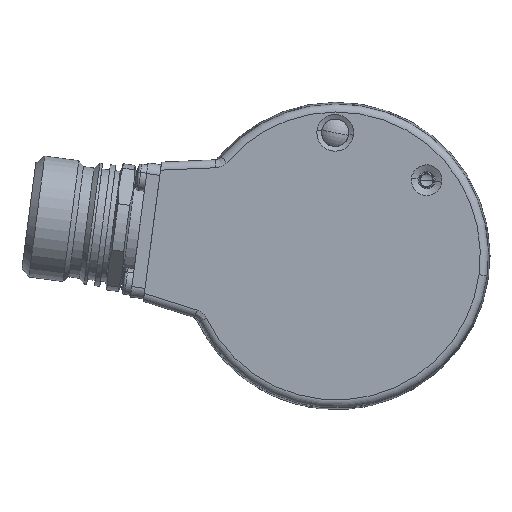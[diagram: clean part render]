
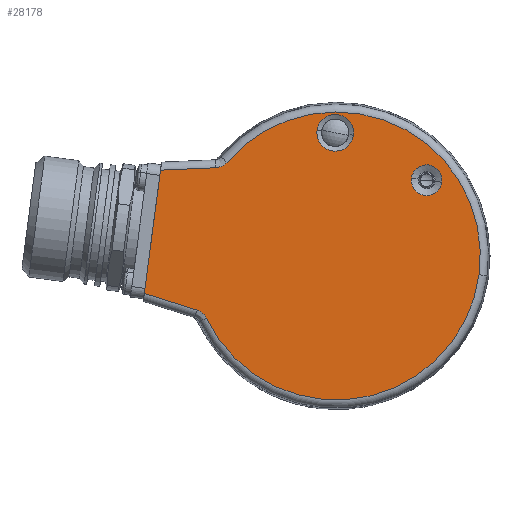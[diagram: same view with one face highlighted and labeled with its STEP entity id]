
A CAD part, left-side view. The second image highlights one B-rep face of the part: STEP entity #28178.
In plain terms, the highlighted planar face has unit normal (-1, 0, 0).
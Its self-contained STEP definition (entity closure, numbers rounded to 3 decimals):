
#22179 = CARTESIAN_POINT ( 'NONE',  ( -19., 3.639, 23.702 ) ) ;
#22180 = DIRECTION ( 'NONE',  ( 0., -0.991, -0.131 ) ) ;
#22181 = DIRECTION ( 'NONE',  ( 1., 0., 0. ) ) ;
#22182 = CARTESIAN_POINT ( 'NONE',  ( -19., 0.203, 23.249 ) ) ;
#22183 = AXIS2_PLACEMENT_3D ( 'NONE', #22182, #22181, #22180 ) ;
#22184 = CIRCLE ( 'NONE', #22183, 3.466 ) ;
#22185 = CARTESIAN_POINT ( 'NONE',  ( -19., -3.233, 22.797 ) ) ;
#22256 = DIRECTION ( 'NONE',  ( 0., -0.991, -0.131 ) ) ;
#22257 = DIRECTION ( 'NONE',  ( 1., 0., 0. ) ) ;
#22258 = CARTESIAN_POINT ( 'NONE',  ( -19., -17.044, 14.302 ) ) ;
#22259 = AXIS2_PLACEMENT_3D ( 'NONE', #22258, #22257, #22256 ) ;
#22260 = CIRCLE ( 'NONE', #22259, 2.899 ) ;
#22261 = CARTESIAN_POINT ( 'NONE',  ( -19., -14.17, 14.68 ) ) ;
#22262 = CARTESIAN_POINT ( 'NONE',  ( -19., -19.919, 13.924 ) ) ;
#23635 = DIRECTION ( 'NONE',  ( 0., -0.131, 0.991 ) ) ;
#23636 = VECTOR ( 'NONE', #23635, 1000. ) ;
#23637 = CARTESIAN_POINT ( 'NONE',  ( -19., 36.43, -8.568 ) ) ;
#23638 = LINE ( 'NONE', #23637, #23636 ) ;
#23639 = CARTESIAN_POINT ( 'NONE',  ( -19., 33.17, 16.195 ) ) ;
#23640 = DIRECTION ( 'NONE',  ( 0., 0.999, -0.044 ) ) ;
#23641 = VECTOR ( 'NONE', #23640, 1000. ) ;
#23642 = CARTESIAN_POINT ( 'NONE',  ( -19., 32.906, 16.206 ) ) ;
#23643 = LINE ( 'NONE', #23642, #23641 ) ;
#23644 = CARTESIAN_POINT ( 'NONE',  ( -19., 20.623, 17.693 ) ) ;
#23645 = CARTESIAN_POINT ( 'NONE',  ( -19., 20.757, 17.536 ) ) ;
#23646 = CARTESIAN_POINT ( 'NONE',  ( -19., 20.905, 17.396 ) ) ;
#23647 = CARTESIAN_POINT ( 'NONE',  ( -19., 21.227, 17.148 ) ) ;
#23648 = CARTESIAN_POINT ( 'NONE',  ( -19., 21.404, 17.038 ) ) ;
#23649 = CARTESIAN_POINT ( 'NONE',  ( -19., 21.771, 16.859 ) ) ;
#23650 = CARTESIAN_POINT ( 'NONE',  ( -19., 21.962, 16.789 ) ) ;
#23651 = CARTESIAN_POINT ( 'NONE',  ( -19., 22.358, 16.688 ) ) ;
#23652 = CARTESIAN_POINT ( 'NONE',  ( -19., 22.564, 16.658 ) ) ;
#23653 = CARTESIAN_POINT ( 'NONE',  ( -19., 22.77, 16.649 ) ) ;
#23654 = CARTESIAN_POINT ( 'NONE',  ( -19., 22.77, 16.649 ) ) ;
#23655 = B_SPLINE_CURVE_WITH_KNOTS ( 'NONE', 3,
 ( #23653, #23652, #23651, #23650, #23649, #23648, #23647, #23646, #23645, #23644 ),
 .UNSPECIFIED., .F., .F.,
 ( 4, 2, 2, 2, 4 ),
 ( 0., 0.001, 0.001, 0.002, 0.002 ),
 .UNSPECIFIED. ) ;
#23772 = CARTESIAN_POINT ( 'NONE',  ( -19., 20.623, 17.693 ) ) ;
#23773 = CARTESIAN_POINT ( 'NONE',  ( -19., -26.94, -3.547 ) ) ;
#23899 = DIRECTION ( 'NONE',  ( 0., -0.991, -0.131 ) ) ;
#23900 = DIRECTION ( 'NONE',  ( 1., 0., 0. ) ) ;
#23901 = CARTESIAN_POINT ( 'NONE',  ( -19., 0.203, 23.249 ) ) ;
#23902 = AXIS2_PLACEMENT_3D ( 'NONE', #23901, #23900, #23899 ) ;
#23919 = CARTESIAN_POINT ( 'NONE',  ( -19., 26.303, -10.189 ) ) ;
#23920 = DIRECTION ( 'NONE',  ( 0., -0.954, -0.301 ) ) ;
#23921 = VECTOR ( 'NONE', #23920, 1000. ) ;
#23922 = CARTESIAN_POINT ( 'NONE',  ( -19., 25.648, -10.395 ) ) ;
#23923 = LINE ( 'NONE', #23922, #23921 ) ;
#23924 = CARTESIAN_POINT ( 'NONE',  ( -19., 36.231, -7.058 ) ) ;
#23972 = FACE_OUTER_BOUND ( 'NONE', #28112, .T. ) ;
#23973 = FACE_BOUND ( 'NONE', #28185, .T. ) ;
#23974 = FACE_BOUND ( 'NONE', #28180, .T. ) ;
#24023 = CIRCLE ( 'NONE', #23902, 3.466 ) ;
#24024 = DIRECTION ( 'NONE',  ( 0., -0.991, -0.131 ) ) ;
#24025 = DIRECTION ( 'NONE',  ( 1., 0., 0. ) ) ;
#24026 = AXIS2_PLACEMENT_3D ( 'NONE', #24032, #24025, #24024 ) ;
#24027 = CIRCLE ( 'NONE', #24026, 2.899 ) ;
#24028 = DIRECTION ( 'NONE',  ( 0., -0.991, -0.131 ) ) ;
#24029 = DIRECTION ( 'NONE',  ( 1., 0., 0. ) ) ;
#24030 = CARTESIAN_POINT ( 'NONE',  ( -19., 0., 0. ) ) ;
#24031 = AXIS2_PLACEMENT_3D ( 'NONE', #24030, #24029, #24028 ) ;
#24032 = CARTESIAN_POINT ( 'NONE',  ( -19., -17.044, 14.302 ) ) ;
#24033 = PLANE ( 'NONE',  #24031 ) ;
#24270 = B_SPLINE_CURVE_WITH_KNOTS ( 'NONE', 3,
 ( #24272, #24271, #24478, #24477, #24476, #24475, #24474, #24473, #24472, #24471 ),
 .UNSPECIFIED., .F., .F.,
 ( 4, 2, 2, 2, 4 ),
 ( 0., 0.001, 0.001, 0.002, 0.002 ),
 .UNSPECIFIED. ) ;
#24271 = CARTESIAN_POINT ( 'NONE',  ( -19., 24.589, -11.567 ) ) ;
#24272 = CARTESIAN_POINT ( 'NONE',  ( -19., 24.5, -11.752 ) ) ;
#24273 = CARTESIAN_POINT ( 'NONE',  ( -19., 24.5, -11.752 ) ) ;
#24466 = DIRECTION ( 'NONE',  ( 0., -0.991, -0.131 ) ) ;
#24467 = DIRECTION ( 'NONE',  ( -1., 0., 0. ) ) ;
#24468 = CARTESIAN_POINT ( 'NONE',  ( -19., 0., 0. ) ) ;
#24469 = AXIS2_PLACEMENT_3D ( 'NONE', #24468, #24467, #24466 ) ;
#24470 = CIRCLE ( 'NONE', #24469, 27.173 ) ;
#24471 = CARTESIAN_POINT ( 'NONE',  ( -19., 26.303, -10.189 ) ) ;
#24472 = CARTESIAN_POINT ( 'NONE',  ( -19., 26.106, -10.251 ) ) ;
#24473 = CARTESIAN_POINT ( 'NONE',  ( -19., 25.919, -10.332 ) ) ;
#24474 = CARTESIAN_POINT ( 'NONE',  ( -19., 25.564, -10.53 ) ) ;
#24475 = CARTESIAN_POINT ( 'NONE',  ( -19., 25.394, -10.649 ) ) ;
#24476 = CARTESIAN_POINT ( 'NONE',  ( -19., 25.085, -10.917 ) ) ;
#24477 = CARTESIAN_POINT ( 'NONE',  ( -19., 24.946, -11.065 ) ) ;
#24478 = CARTESIAN_POINT ( 'NONE',  ( -19., 24.697, -11.39 ) ) ;
#27301 = VERTEX_POINT ( 'NONE', #22262 ) ;
#27302 = VERTEX_POINT ( 'NONE', #22261 ) ;
#27304 = EDGE_CURVE ( 'NONE', #27302, #27301, #22260, .T. ) ;
#27330 = VERTEX_POINT ( 'NONE', #22185 ) ;
#27332 = EDGE_CURVE ( 'NONE', #27334, #27330, #22184, .T. ) ;
#27334 = VERTEX_POINT ( 'NONE', #22179 ) ;
#28078 = VERTEX_POINT ( 'NONE', #23773 ) ;
#28079 = VERTEX_POINT ( 'NONE', #23772 ) ;
#28112 = EDGE_LOOP ( 'NONE', ( #28114, #28118, #28122, #28204, #28210, #28542, #28545 ) ) ;
#28114 = ORIENTED_EDGE ( 'NONE', *, *, #28115, .F. ) ;
#28115 = EDGE_CURVE ( 'NONE', #28116, #28079, #23655, .T. ) ;
#28116 = VERTEX_POINT ( 'NONE', #23654 ) ;
#28118 = ORIENTED_EDGE ( 'NONE', *, *, #28119, .T. ) ;
#28119 = EDGE_CURVE ( 'NONE', #28116, #28120, #23643, .T. ) ;
#28120 = VERTEX_POINT ( 'NONE', #23639 ) ;
#28122 = ORIENTED_EDGE ( 'NONE', *, *, #28123, .F. ) ;
#28123 = EDGE_CURVE ( 'NONE', #28202, #28120, #23638, .T. ) ;
#28178 = ADVANCED_FACE ( 'NONE', ( #23974, #23973, #23972 ), #24033, .F. ) ;
#28180 = EDGE_LOOP ( 'NONE', ( #28181, #28182 ) ) ;
#28181 = ORIENTED_EDGE ( 'NONE', *, *, #27304, .T. ) ;
#28182 = ORIENTED_EDGE ( 'NONE', *, *, #28183, .T. ) ;
#28183 = EDGE_CURVE ( 'NONE', #27301, #27302, #24027, .T. ) ;
#28185 = EDGE_LOOP ( 'NONE', ( #28186, #28187 ) ) ;
#28186 = ORIENTED_EDGE ( 'NONE', *, *, #27332, .T. ) ;
#28187 = ORIENTED_EDGE ( 'NONE', *, *, #28188, .T. ) ;
#28188 = EDGE_CURVE ( 'NONE', #27330, #27334, #24023, .T. ) ;
#28202 = VERTEX_POINT ( 'NONE', #23924 ) ;
#28204 = ORIENTED_EDGE ( 'NONE', *, *, #28205, .T. ) ;
#28205 = EDGE_CURVE ( 'NONE', #28202, #28208, #23923, .T. ) ;
#28208 = VERTEX_POINT ( 'NONE', #23919 ) ;
#28210 = ORIENTED_EDGE ( 'NONE', *, *, #28539, .F. ) ;
#28373 = EDGE_CURVE ( 'NONE', #28078, #28079, #33946, .T. ) ;
#28539 = EDGE_CURVE ( 'NONE', #28541, #28208, #24270, .T. ) ;
#28541 = VERTEX_POINT ( 'NONE', #24273 ) ;
#28542 = ORIENTED_EDGE ( 'NONE', *, *, #28543, .T. ) ;
#28543 = EDGE_CURVE ( 'NONE', #28541, #28078, #24470, .T. ) ;
#28545 = ORIENTED_EDGE ( 'NONE', *, *, #28373, .T. ) ;
#33918 = DIRECTION ( 'NONE',  ( 0., -0.991, -0.131 ) ) ;
#33921 = DIRECTION ( 'NONE',  ( -1., 0., 0. ) ) ;
#33923 = CARTESIAN_POINT ( 'NONE',  ( -19., 0., 0. ) ) ;
#33925 = AXIS2_PLACEMENT_3D ( 'NONE', #33923, #33921, #33918 ) ;
#33946 = CIRCLE ( 'NONE', #33925, 27.173 ) ;
